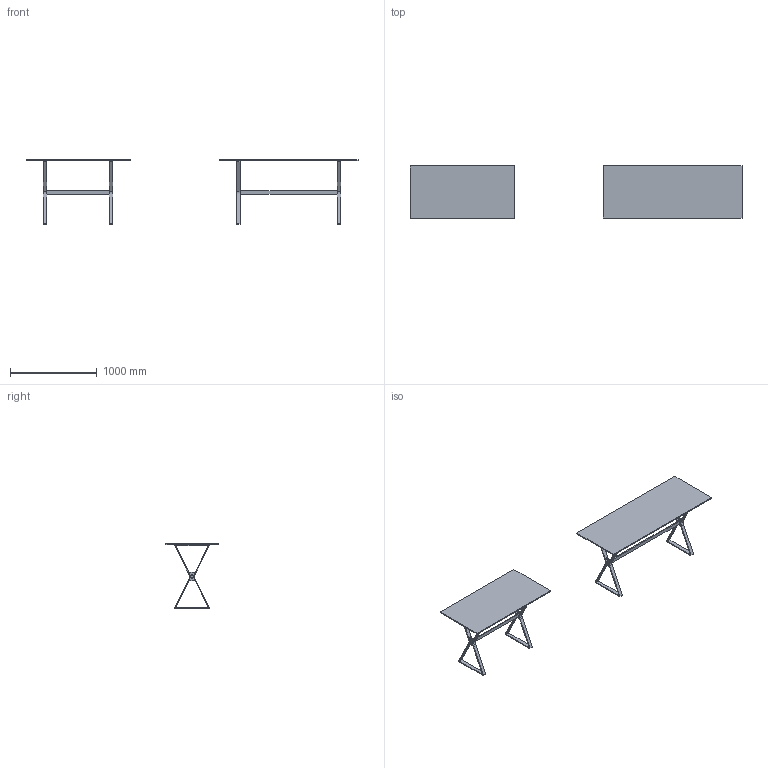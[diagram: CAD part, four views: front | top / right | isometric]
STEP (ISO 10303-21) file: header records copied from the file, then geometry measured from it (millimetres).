
FILE_DESCRIPTION(/* description */ (''),/* implementation_level */ '2;1');
FILE_NAME(/* name */ 'HYPE_S~1',/* time_stamp */ '2019-05-27T17:06:38+02:00',/* author */ (''),/* organization */ (''),/* preprocessor_version */ 'ST-DEVELOPER v16.5',/* originating_system */ '',/* authorisation */ '');
FILE_SCHEMA (('CONFIG_CONTROL_DESIGN'));
Length unit declared in the file: millimetre
Products named in the file (1): Document
Bounding box: 3826.13 x 600.7 x 749.02 mm (x, y, z)
Volume: 25328125.9 mm3; surface area: 4692040.7 mm2
Topology: 24 solids, 24 shells, 192 faces, 432 edges, 288 vertices
Faces by surface type: bspline 100, plane 92
Entity records: 4752 total; most frequent: CARTESIAN_POINT 2030, ORIENTED_EDGE 864, EDGE_CURVE 432, VERTEX_POINT 288, ADVANCED_FACE 192, FACE_OUTER_BOUND 192, EDGE_LOOP 192, B_SPLINE_CURVE_WITH_KNOTS 144
